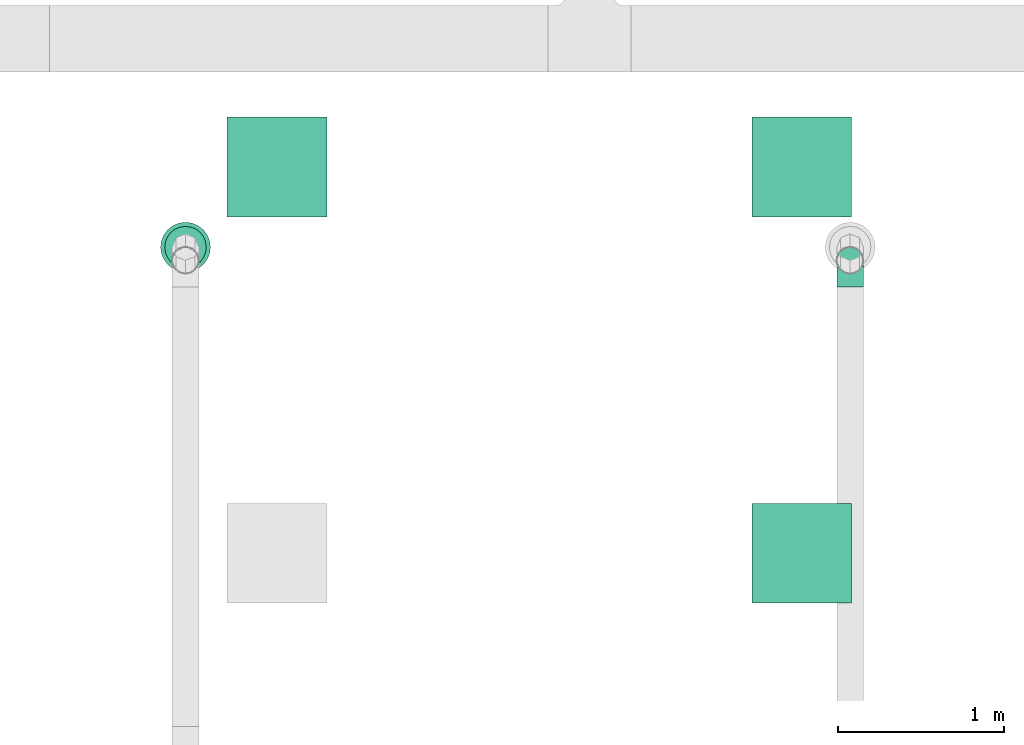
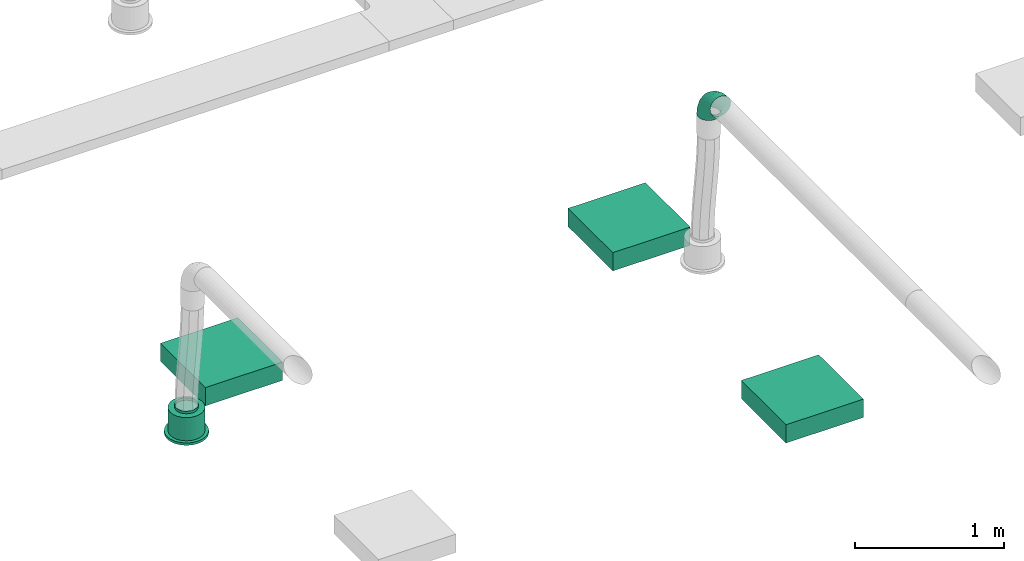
# One storey, part 34 of 374: 3 distribution elements, 1 flow fitting, 1 flow terminal.
"""IFC2X3 building model written with IfcOpenShell, lengths in metres."""

import ifcopenshell
import ifcopenshell.guid

model = None  # the IFC model being written
_history = None  # IfcOwnerHistory: only IFC2X3 demands one
_inside = {}  # id of a spatial element -> (the spatial element, [elements in it])
_under = {}  # id of a project, library or spatial element -> (it, [spatial elements below it])
_declared = {}  # id of a project -> (the project, [libraries it declares])
_typed = {}  # id of a type object -> (the type object, [elements of that type])
_made_of = {}  # id of a material, layer set ... -> (it, [elements and type objects made of it])


def new_model(schema):
    """Start an empty IFC model of exactly this schema.

    Asked for "IFC4X3", IfcOpenShell would pick the latest addendum, in which some entities
    have other attributes; the version numbers below select the first issue.
    IFC2X3 requires an IfcOwnerHistory on every rooted entity: one is made here for all.
    """
    global model, _history
    if schema == "IFC4X3":
        model = ifcopenshell.file(schema_version=(4, 3, 0, 0))
    else:
        model = ifcopenshell.file(schema=schema)
    _inside.clear()
    _under.clear()
    _declared.clear()
    _typed.clear()
    _made_of.clear()
    _history = None
    if model.schema == "IFC2X3":
        org = make("IfcOrganization", Name="unknown")
        user = make(
            "IfcPersonAndOrganization",
            ThePerson=make("IfcPerson", FamilyName="unknown"),
            TheOrganization=org,
        )
        app = make(
            "IfcApplication",
            ApplicationDeveloper=org,
            Version="unknown",
            ApplicationFullName="unknown",
            ApplicationIdentifier="unknown",
        )
        _history = make(
            "IfcOwnerHistory",
            OwningUser=user,
            OwningApplication=app,
            ChangeAction="ADDED",
            CreationDate=0,
        )
    return model


def make(cls, **values):
    """One entity of the class cls with the attributes given. An attribute that is None is left unset."""
    return model.create_entity(
        cls, **{name: value for name, value in values.items() if value is not None}
    )


def rooted(cls, **values):
    """An entity with a GlobalId (a new one), such as an element, a storey or a relation."""
    return make(cls, GlobalId=ifcopenshell.guid.new(), OwnerHistory=_history, **values)


def si_unit(unit_type, name, prefix=None):
    """IfcSIUnit, for example si_unit("LENGTHUNIT", "METRE", prefix="MILLI")."""
    return make("IfcSIUnit", UnitType=unit_type, Prefix=prefix, Name=name)


def assignment(units):
    """IfcUnitAssignment: the units of a project."""
    return None if units is None else make("IfcUnitAssignment", Units=units)


def point(xyz):
    """IfcCartesianPoint."""
    return None if xyz is None else make("IfcCartesianPoint", Coordinates=xyz)


def direction(xyz):
    """IfcDirection."""
    return None if xyz is None else make("IfcDirection", DirectionRatios=xyz)


def frame(location, z_axis=None, x_axis=None):
    """IfcAxis2Placement3D, a coordinate frame: its origin and axes. An axis left out is left unset."""
    return make(
        "IfcAxis2Placement3D",
        Location=point(location),
        Axis=direction(z_axis),
        RefDirection=direction(x_axis),
    )


def frame_2d(location, x_axis=None):
    """IfcAxis2Placement2D, a coordinate frame in the plane: its origin and x axis."""
    return make(
        "IfcAxis2Placement2D", Location=point(location), RefDirection=direction(x_axis)
    )


def origin():
    """The frame at (0, 0, 0) with its axes left unset."""
    return frame((0.0, 0.0, 0.0))


def place(relative_to, where):
    """IfcLocalPlacement: puts the frame where relative to a parent placement (None: the world)."""
    return make(
        "IfcLocalPlacement", PlacementRelTo=relative_to, RelativePlacement=where
    )


def context(
    kind, dimensions, precision=None, world=None, true_north=None, identifier=None
):
    """IfcGeometricRepresentationContext, for example the 3D "Model" context."""
    return make(
        "IfcGeometricRepresentationContext",
        ContextIdentifier=identifier,
        ContextType=kind,
        CoordinateSpaceDimension=dimensions,
        Precision=precision,
        WorldCoordinateSystem=world,
        TrueNorth=true_north,
    )


def subcontext(parent, identifier, kind, view, scale=None):
    """IfcGeometricRepresentationSubContext, for example "Body" below "Model"."""
    return make(
        "IfcGeometricRepresentationSubContext",
        ContextIdentifier=identifier,
        ContextType=kind,
        ParentContext=parent,
        TargetScale=scale,
        TargetView=view,
    )


def project(units=None, contexts=None):
    """IfcProject with its units and contexts."""
    return rooted(
        "IfcProject",
        Name="project",
        RepresentationContexts=contexts,
        UnitsInContext=assignment(units),
    )


def spatial(cls, under=None, at=None, **own):
    """A site, building, storey or space (cls), placed at a placement, below another one or the project."""
    s = rooted(cls, ObjectPlacement=at, **own)
    if under is not None:
        _under.setdefault(under.id(), (under, []))[1].append(s)
    return s


def profile(cls, at=None, kind="AREA", **sizes):
    """A parametric profile (cls). Its sizes go by their IFC names, for example OverallWidth=200.0."""
    return make(cls, ProfileType=kind, Position=at, **sizes)


def rectangle(**sizes):
    """IfcRectangleProfileDef."""
    return profile("IfcRectangleProfileDef", **sizes)


def extrude(swept, where, along, depth):
    """IfcExtrudedAreaSolid: the profile swept, set in the frame where, extruded along a direction by depth."""
    return make(
        "IfcExtrudedAreaSolid",
        SweptArea=swept,
        Position=where,
        ExtrudedDirection=direction(along),
        Depth=depth,
    )


def faces_of(points, faces, orient=None, outer=None):
    """IfcFace entities. A face is a list of loops; a loop is a list of indices into points, from 0.

    orient and outer hold one flag for each loop. By default every Orientation is true, the
    first loop of a face is its IfcFaceOuterBound and the others are IfcFaceBound.
    """
    made = []
    for i, loops in enumerate(faces):
        bounds = []
        for j, loop in enumerate(loops):
            is_outer = j == 0 if outer is None else outer[i][j]
            bounds.append(
                make(
                    "IfcFaceOuterBound" if is_outer else "IfcFaceBound",
                    Bound=make("IfcPolyLoop", Polygon=[points[k] for k in loop]),
                    Orientation=True if orient is None else orient[i][j],
                )
            )
        made.append(make("IfcFace", Bounds=bounds))
    return made


def open_shell(faces, orient=None, outer=None):
    """The faces of one IfcOpenShell. surface_model builds it on its shared points."""
    return ("IfcOpenShell", faces, orient, outer)


def surface_model(cls, points, shells):
    """IfcFaceBasedSurfaceModel or IfcShellBasedSurfaceModel (cls): surfaces that need not close."""
    shared = [point(p) for p in points]
    made = [make(c, CfsFaces=faces_of(shared, fs, o, b)) for c, fs, o, b in shells]
    if cls == "IfcFaceBasedSurfaceModel":
        return make(cls, FbsmFaces=made)
    return make(cls, SbsmBoundary=made)


def shape(context_of_items, identifier, shape_type, items):
    """IfcShapeRepresentation: the items that make up one representation, for example the "Body"."""
    return make(
        "IfcShapeRepresentation",
        ContextOfItems=context_of_items,
        RepresentationIdentifier=identifier,
        RepresentationType=shape_type,
        Items=items,
    )


def source(mapping_origin, context_of_items, identifier, shape_type, items):
    """IfcRepresentationMap: a shape defined once, which mapped items show again and again."""
    return make(
        "IfcRepresentationMap",
        MappingOrigin=mapping_origin,
        MappedRepresentation=shape(context_of_items, identifier, shape_type, items),
    )


def transform(
    local_origin,
    x_axis=None,
    y_axis=None,
    z_axis=None,
    scale=None,
    scale2=None,
    scale3=None,
    uniform=True,
):
    """IfcCartesianTransformationOperator3D, or its non-uniform kind. x_axis, y_axis, z_axis: its Axis1, 2, 3."""
    if uniform:
        return make(
            "IfcCartesianTransformationOperator3D",
            Axis1=direction(x_axis),
            Axis2=direction(y_axis),
            LocalOrigin=point(local_origin),
            Scale=scale,
            Axis3=direction(z_axis),
        )
    return make(
        "IfcCartesianTransformationOperator3DnonUniform",
        Axis1=direction(x_axis),
        Axis2=direction(y_axis),
        LocalOrigin=point(local_origin),
        Scale=scale,
        Axis3=direction(z_axis),
        Scale2=scale2,
        Scale3=scale3,
    )


def mapped(mapping_source, mapping_target):
    """IfcMappedItem: shows the shape of a source again, moved by a transform."""
    return make(
        "IfcMappedItem", MappingSource=mapping_source, MappingTarget=mapping_target
    )


def made_of(thing, what):
    """Note that an element or type object is made of a material, layer set ...; save() writes the relation."""
    if what is not None:
        _made_of.setdefault(what.id(), (what, []))[1].append(thing)
    return thing


def element(
    cls,
    number,
    at=None,
    inside=None,
    cuts=None,
    type_object=None,
    material=None,
    context=None,
    identifier="Body",
    shape_type=None,
    held_by="IfcProductDefinitionShape",
    body=None,
    shapes=None,
    **own,
):
    """One element of the class cls, such as IfcWall. Its Tag is "e" and its number.

    at: its placement. inside: the storey or other place that contains it. cuts: it is an
    opening in that element (IfcRelVoidsElement). A single representation is given by context,
    identifier, shape_type and body (its items); several are given by shapes. held_by: the class
    of the entity that holds the representations. save() writes the other relations.
    """
    e = rooted(cls, Tag="e%d" % number, ObjectPlacement=at, **own)
    if body is not None:
        shapes = [shape(context, identifier, shape_type, body)]
    if shapes is not None:
        e.Representation = make(held_by, Representations=shapes)
    if inside is not None:
        _inside.setdefault(inside.id(), (inside, []))[1].append(e)
    if cuts is not None:
        rooted(
            "IfcRelVoidsElement", RelatingBuildingElement=cuts, RelatedOpeningElement=e
        )
    if type_object is not None:
        _typed.setdefault(type_object.id(), (type_object, []))[1].append(e)
    return made_of(e, material)


def aggregate(whole, parts):
    """IfcRelAggregates: a whole, such as a stair, and the parts it consists of."""
    return rooted("IfcRelAggregates", RelatingObject=whole, RelatedObjects=parts)


def save(model, path):
    """Write the relations noted so far, then the file.

    IfcRelAggregates (storeys below a building ...), IfcRelContainedInSpatialStructure (elements
    in a storey), IfcRelDefinesByType, IfcRelAssociatesMaterial and IfcRelDeclares: one each for
    every whole, place, type object, material and project.
    """
    for whole, parts in _under.values():
        aggregate(whole, parts)
    for where, things in _inside.values():
        rooted(
            "IfcRelContainedInSpatialStructure",
            RelatedElements=things,
            RelatingStructure=where,
        )
    for kind, things in _typed.values():
        rooted("IfcRelDefinesByType", RelatedObjects=things, RelatingType=kind)
    for what, things in _made_of.values():
        rooted("IfcRelAssociatesMaterial", RelatedObjects=things, RelatingMaterial=what)
    for by, libraries in _declared.values():
        rooted("IfcRelDeclares", RelatingContext=by, RelatedDefinitions=libraries)
    model.write(path)


model = new_model("IFC2X3")

# Units and contexts
model_context = context("Model", 3, precision=1e-05, world=origin(), true_north=direction((-0.4480736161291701, 0.8939966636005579)))
body_context = subcontext(model_context, "Body", "Model", "MODEL_VIEW")
ifc_project = project(units=[si_unit("LENGTHUNIT", "METRE"), si_unit("AREAUNIT", "SQUARE_METRE"), si_unit("VOLUMEUNIT", "CUBIC_METRE"), si_unit("PLANEANGLEUNIT", "RADIAN"), si_unit("THERMODYNAMICTEMPERATUREUNIT", "KELVIN"), si_unit("MASSUNIT", "GRAM", prefix="KILO"), si_unit("TIMEUNIT", "SECOND")], contexts=[model_context])

# Site, building, storey
site_placement = place(None, origin())
site = spatial("IfcSite", under=ifc_project, at=site_placement, Name="Site 1", CompositionType="ELEMENT")
building_placement = place(site_placement, origin())
building = spatial("IfcBuilding", under=site, at=building_placement, Name="Undefined", CompositionType="ELEMENT")
storey_placement = place(building_placement, origin())
storey = spatial("IfcBuildingStorey", under=building, at=storey_placement, Name="Rez de chauss\x8ee", CompositionType="ELEMENT", Elevation=0.0)

# Flow terminal
shared_shape_1 = source(origin(), body_context, "Body", "SurfaceModel", [
    surface_model("IfcFaceBasedSurfaceModel", [(0.0, 0.0, 0.0), (0.03915785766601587, 0.0, 0.0), (0.03915785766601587, 0.020000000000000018, 0.0), (3.552713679e-15, 0.020000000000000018, 0.0), (0.07698144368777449, 0.0, -0.010134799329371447), (0.07698144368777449, 0.020000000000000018, -0.010134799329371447), (0.11089314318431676, 0.0, -0.02971372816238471), (0.11089314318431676, 0.020000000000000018, -0.02971372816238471), (0.13858192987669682, 0.0, -0.05740251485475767), (0.13858192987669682, 0.020000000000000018, -0.05740251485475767), (0.15816085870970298, 0.0, -0.09131421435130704), (0.15816085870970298, 0.020000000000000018, -0.09131421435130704), (0.16829565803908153, 0.0, -0.12913780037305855), (0.16829565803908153, 0.020000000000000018, -0.12913780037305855), (0.16829565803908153, 0.0, -0.16829565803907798), (0.16829565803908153, 0.020000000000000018, -0.16829565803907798), (0.15816085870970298, 0.0, -0.20611924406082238), (0.15816085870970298, 0.020000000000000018, -0.20611924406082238), (0.13858192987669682, 0.0, -0.24003094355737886), (0.13858192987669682, 0.020000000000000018, -0.24003094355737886), (0.11089314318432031, 0.0, -0.2677197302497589), (0.11089314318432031, 0.020000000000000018, -0.2677197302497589), (0.07698144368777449, 0.0, -0.2872986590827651), (0.07698144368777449, 0.020000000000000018, -0.2872986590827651), (0.039157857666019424, 0.0, -0.29743345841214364), (0.039157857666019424, 0.020000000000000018, -0.29743345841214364), (3.552713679e-15, 0.0, -0.29743345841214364), (3.552713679e-15, 0.020000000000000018, -0.29743345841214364), (-0.03782358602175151, 0.0, -0.2872986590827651), (-0.03782358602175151, 0.020000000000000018, -0.2872986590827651), (-0.07173528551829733, 0.0, -0.2677197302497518), (-0.07173528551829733, 0.020000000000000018, -0.2677197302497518), (-0.0994240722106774, 0.0, -0.24003094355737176), (-0.0994240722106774, 0.020000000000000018, -0.24003094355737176), (-0.11900300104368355, 0.0, -0.2061192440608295), (-0.11900300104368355, 0.020000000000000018, -0.2061192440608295), (-0.1291378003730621, 0.0, -0.16829565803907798), (-0.1291378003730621, 0.020000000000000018, -0.16829565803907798), (-0.1291378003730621, 0.0, -0.12913780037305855), (-0.1291378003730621, 0.020000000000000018, -0.12913780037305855), (-0.11900300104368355, 0.0, -0.09131421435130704), (-0.11900300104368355, 0.020000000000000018, -0.09131421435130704), (-0.0994240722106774, 0.0, -0.05740251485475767), (-0.0994240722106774, 0.020000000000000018, -0.05740251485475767), (-0.07173528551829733, 0.0, -0.029713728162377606), (-0.07173528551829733, 0.020000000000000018, -0.029713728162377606), (-0.03782358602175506, 0.0, -0.010134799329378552), (-0.03782358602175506, 0.020000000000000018, -0.010134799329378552), (0.019578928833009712, 0.0, -0.14871672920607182), (0.019578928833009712, 0.020000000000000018, -0.14871672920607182), (0.003263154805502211, 0.020000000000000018, -0.02478612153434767), (0.035894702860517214, 0.020000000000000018, -0.02478612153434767), (0.035894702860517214, 0.20999999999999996, -0.02478612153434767), (0.003263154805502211, 0.20999999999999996, -0.02478612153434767), (0.06741435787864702, 0.020000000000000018, -0.033231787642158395), (0.06741435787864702, 0.20999999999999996, -0.033231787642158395), (0.0956741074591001, 0.020000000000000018, -0.04954756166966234), (0.0956741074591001, 0.20999999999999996, -0.04954756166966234), (0.11874809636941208, 0.020000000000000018, -0.07262155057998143), (0.11874809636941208, 0.20999999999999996, -0.07262155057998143), (0.13506387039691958, 0.020000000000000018, -0.10088130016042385), (0.13506387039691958, 0.20999999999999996, -0.10088130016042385), (0.1435095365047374, 0.020000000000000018, -0.13240095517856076), (0.1435095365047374, 0.20999999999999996, -0.13240095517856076), (0.1435095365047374, 0.020000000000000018, -0.16503250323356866), (0.1435095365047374, 0.20999999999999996, -0.16503250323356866), (0.13506387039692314, 0.020000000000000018, -0.19655215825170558), (0.13506387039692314, 0.20999999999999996, -0.19655215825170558), (0.11874809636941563, 0.020000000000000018, -0.2248119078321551), (0.11874809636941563, 0.20999999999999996, -0.2248119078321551), (0.09567410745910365, 0.020000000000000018, -0.24788589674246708), (0.09567410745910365, 0.20999999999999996, -0.24788589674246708), (0.06741435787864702, 0.020000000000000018, -0.26420167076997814), (0.06741435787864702, 0.20999999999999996, -0.26420167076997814), (0.035894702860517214, 0.020000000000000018, -0.27264733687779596), (0.035894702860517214, 0.20999999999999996, -0.27264733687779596), (0.0032631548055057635, 0.020000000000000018, -0.27264733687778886), (0.0032631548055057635, 0.20999999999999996, -0.27264733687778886), (-0.028256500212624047, 0.020000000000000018, -0.26420167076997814), (-0.028256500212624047, 0.20999999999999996, -0.26420167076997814), (-0.05651624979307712, 0.020000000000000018, -0.2478858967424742), (-0.05651624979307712, 0.20999999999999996, -0.2478858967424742), (-0.07959023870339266, 0.020000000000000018, -0.2248119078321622), (-0.07959023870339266, 0.20999999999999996, -0.2248119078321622), (-0.09590601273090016, 0.020000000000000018, -0.19655215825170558), (-0.09590601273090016, 0.20999999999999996, -0.19655215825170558), (-0.10435167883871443, 0.020000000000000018, -0.16503250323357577), (-0.10435167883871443, 0.20999999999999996, -0.16503250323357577), (-0.10435167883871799, 0.020000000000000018, -0.13240095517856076), (-0.10435167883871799, 0.20999999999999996, -0.13240095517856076), (-0.09590601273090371, 0.020000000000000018, -0.10088130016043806), (-0.09590601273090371, 0.20999999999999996, -0.10088130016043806), (-0.07959023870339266, 0.020000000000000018, -0.07262155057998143), (-0.07959023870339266, 0.20999999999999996, -0.07262155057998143), (-0.056516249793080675, 0.020000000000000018, -0.04954756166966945), (-0.056516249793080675, 0.20999999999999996, -0.04954756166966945), (-0.028256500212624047, 0.020000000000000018, -0.033231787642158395), (-0.028256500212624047, 0.20999999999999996, -0.033231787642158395), (0.019578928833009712, 0.20999999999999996, -0.14871672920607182), (0.009136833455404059, 0.20999999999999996, -0.06940114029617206), (0.030021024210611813, 0.20999999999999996, -0.06940114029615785), (0.030021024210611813, 0.22999999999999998, -0.06940114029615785), (0.009136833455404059, 0.22999999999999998, -0.06940114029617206), (0.05019360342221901, 0.20999999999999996, -0.07480636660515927), (0.05019360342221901, 0.22999999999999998, -0.07480636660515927), (0.06827984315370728, 0.20999999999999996, -0.08524846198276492), (0.06827984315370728, 0.22999999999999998, -0.08524846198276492), (0.0830471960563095, 0.20999999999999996, -0.10001581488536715), (0.0830471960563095, 0.22999999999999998, -0.10001581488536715), (0.0934892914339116, 0.20999999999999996, -0.11810205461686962), (0.0934892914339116, 0.22999999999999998, -0.11810205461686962), (0.09889451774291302, 0.20999999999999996, -0.13827463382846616), (0.09889451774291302, 0.22999999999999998, -0.13827463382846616), (0.09889451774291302, 0.20999999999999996, -0.15915882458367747), (0.09889451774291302, 0.22999999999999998, -0.15915882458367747), (0.09348929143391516, 0.20999999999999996, -0.179331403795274), (0.09348929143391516, 0.22999999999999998, -0.179331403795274), (0.0830471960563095, 0.20999999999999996, -0.19741764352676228), (0.0830471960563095, 0.22999999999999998, -0.19741764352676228), (0.06827984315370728, 0.20999999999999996, -0.2121849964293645), (0.06827984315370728, 0.22999999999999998, -0.2121849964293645), (0.05019360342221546, 0.20999999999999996, -0.22262709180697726), (0.05019360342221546, 0.22999999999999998, -0.22262709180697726), (0.030021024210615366, 0.20999999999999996, -0.22803231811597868), (0.030021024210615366, 0.22999999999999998, -0.22803231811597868), (0.009136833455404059, 0.20999999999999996, -0.22803231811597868), (0.009136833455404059, 0.22999999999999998, -0.22803231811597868), (-0.011035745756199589, 0.20999999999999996, -0.22262709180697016), (-0.011035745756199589, 0.22999999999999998, -0.22262709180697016), (-0.0291219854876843, 0.20999999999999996, -0.2121849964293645), (-0.0291219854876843, 0.22999999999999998, -0.2121849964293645), (-0.043889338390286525, 0.20999999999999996, -0.19741764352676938), (-0.043889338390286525, 0.22999999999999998, -0.19741764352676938), (-0.05433143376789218, 0.20999999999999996, -0.17933140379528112), (-0.05433143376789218, 0.22999999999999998, -0.17933140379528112), (-0.05973666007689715, 0.20999999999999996, -0.15915882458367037), (-0.05973666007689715, 0.22999999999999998, -0.15915882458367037), (-0.0597366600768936, 0.20999999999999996, -0.13827463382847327), (-0.0597366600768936, 0.22999999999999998, -0.13827463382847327), (-0.05433143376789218, 0.20999999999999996, -0.11810205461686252), (-0.05433143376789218, 0.22999999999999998, -0.11810205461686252), (-0.043889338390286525, 0.20999999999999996, -0.10001581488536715), (-0.043889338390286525, 0.22999999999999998, -0.10001581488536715), (-0.02912198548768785, 0.20999999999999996, -0.08524846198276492), (-0.02912198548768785, 0.22999999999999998, -0.08524846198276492), (-0.011035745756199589, 0.20999999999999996, -0.07480636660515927), (-0.011035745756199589, 0.22999999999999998, -0.07480636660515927)], [open_shell([[[0, 1, 2, 3]], [[1, 4, 5, 2]], [[4, 6, 7, 5]], [[6, 8, 9, 7]], [[8, 10, 11, 9]], [[10, 12, 13, 11]], [[12, 14, 15, 13]], [[14, 16, 17, 15]], [[16, 18, 19, 17]], [[18, 20, 21, 19]], [[20, 22, 23, 21]], [[22, 24, 25, 23]], [[24, 26, 27, 25]], [[26, 28, 29, 27]], [[28, 30, 31, 29]], [[30, 32, 33, 31]], [[32, 34, 35, 33]], [[34, 36, 37, 35]], [[36, 38, 39, 37]], [[38, 40, 41, 39]], [[40, 42, 43, 41]], [[42, 44, 45, 43]], [[44, 46, 47, 45]], [[46, 0, 3, 47]], [[48, 1, 0]], [[48, 4, 1]], [[48, 6, 4]], [[48, 8, 6]], [[48, 10, 8]], [[48, 12, 10]], [[48, 14, 12]], [[48, 16, 14]], [[48, 18, 16]], [[48, 20, 18]], [[48, 22, 20]], [[48, 24, 22]], [[48, 26, 24]], [[48, 28, 26]], [[48, 30, 28]], [[48, 32, 30]], [[48, 34, 32]], [[48, 36, 34]], [[48, 38, 36]], [[48, 40, 38]], [[48, 42, 40]], [[48, 44, 42]], [[48, 46, 44]], [[48, 0, 46]], [[49, 47, 3]], [[49, 45, 47]], [[49, 43, 45]], [[49, 41, 43]], [[49, 39, 41]], [[49, 37, 39]], [[49, 35, 37]], [[49, 33, 35]], [[49, 31, 33]], [[49, 29, 31]], [[49, 27, 29]], [[49, 25, 27]], [[49, 23, 25]], [[49, 21, 23]], [[49, 19, 21]], [[49, 17, 19]], [[49, 15, 17]], [[49, 13, 15]], [[49, 11, 13]], [[49, 9, 11]], [[49, 7, 9]], [[49, 5, 7]], [[49, 2, 5]], [[49, 3, 2]], [[50, 51, 52, 53]], [[51, 54, 55, 52]], [[54, 56, 57, 55]], [[56, 58, 59, 57]], [[58, 60, 61, 59]], [[60, 62, 63, 61]], [[62, 64, 65, 63]], [[64, 66, 67, 65]], [[66, 68, 69, 67]], [[68, 70, 71, 69]], [[70, 72, 73, 71]], [[72, 74, 75, 73]], [[74, 76, 77, 75]], [[76, 78, 79, 77]], [[78, 80, 81, 79]], [[80, 82, 83, 81]], [[82, 84, 85, 83]], [[84, 86, 87, 85]], [[86, 88, 89, 87]], [[88, 90, 91, 89]], [[90, 92, 93, 91]], [[92, 94, 95, 93]], [[94, 96, 97, 95]], [[96, 50, 53, 97]], [[49, 51, 50]], [[49, 54, 51]], [[49, 56, 54]], [[49, 58, 56]], [[49, 60, 58]], [[49, 62, 60]], [[49, 64, 62]], [[49, 66, 64]], [[49, 68, 66]], [[49, 70, 68]], [[49, 72, 70]], [[49, 74, 72]], [[49, 76, 74]], [[49, 78, 76]], [[49, 80, 78]], [[49, 82, 80]], [[49, 84, 82]], [[49, 86, 84]], [[49, 88, 86]], [[49, 90, 88]], [[49, 92, 90]], [[49, 94, 92]], [[49, 96, 94]], [[49, 50, 96]], [[98, 97, 53]], [[98, 95, 97]], [[98, 93, 95]], [[98, 91, 93]], [[98, 89, 91]], [[98, 87, 89]], [[98, 85, 87]], [[98, 83, 85]], [[98, 81, 83]], [[98, 79, 81]], [[98, 77, 79]], [[98, 75, 77]], [[98, 73, 75]], [[98, 71, 73]], [[98, 69, 71]], [[98, 67, 69]], [[98, 65, 67]], [[98, 63, 65]], [[98, 61, 63]], [[98, 59, 61]], [[98, 57, 59]], [[98, 55, 57]], [[98, 52, 55]], [[98, 53, 52]], [[99, 100, 101, 102]], [[100, 103, 104, 101]], [[103, 105, 106, 104]], [[105, 107, 108, 106]], [[107, 109, 110, 108]], [[109, 111, 112, 110]], [[111, 113, 114, 112]], [[113, 115, 116, 114]], [[115, 117, 118, 116]], [[117, 119, 120, 118]], [[119, 121, 122, 120]], [[121, 123, 124, 122]], [[123, 125, 126, 124]], [[125, 127, 128, 126]], [[127, 129, 130, 128]], [[129, 131, 132, 130]], [[131, 133, 134, 132]], [[133, 135, 136, 134]], [[135, 137, 138, 136]], [[137, 139, 140, 138]], [[139, 141, 142, 140]], [[141, 143, 144, 142]], [[143, 145, 146, 144]], [[145, 99, 102, 146]]])]),
])
flow_terminal_placement = place(storey_placement, origin())
element("IfcFlowTerminal", 1, at=flow_terminal_placement, inside=storey, Name="Air diffuseur - bouche", ObjectType="Air diffuseur - bouche", context=body_context, shape_type="MappedRepresentation", body=[
    mapped(shared_shape_1, transform((6.980053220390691, 16.80529701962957, 2.38), x_axis=(0.9914448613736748, 0.13052619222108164, 0.0), y_axis=(0.0, 0.0, 1.0), z_axis=(0.13052619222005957, -0.9914448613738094, 0.0))),
])

# Flow fitting
shared_shape_2 = source(origin(), body_context, "Body", "SurfaceModel", [
    surface_model("IfcFaceBasedSurfaceModel", [(0.06265257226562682, -8.8817842e-16, 0.0), (0.062296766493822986, 0.02088115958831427, -7.105427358e-15), (0.0003558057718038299, 0.020881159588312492, 7.105427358e-15), (0.0, 0.0, 0.0), (-0.059474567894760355, 0.022956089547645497, -0.015896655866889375), (-0.06051773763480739, 0.002098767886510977, -0.01607928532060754), (-0.11311701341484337, 0.02696454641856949, -0.04660663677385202), (-0.11477645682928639, 0.006153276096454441, -0.04714207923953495), (-0.15691588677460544, 0.0326333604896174, -0.09003710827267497), (-0.15907851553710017, 0.01188721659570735, -0.09107150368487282), (-0.18788636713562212, 0.03957621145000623, -0.14322835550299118), (-0.1904048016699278, 0.01890983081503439, -0.14487384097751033), (-0.2039178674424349, 0.04731995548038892, -0.20255548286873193), (-0.20662048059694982, 0.026742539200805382, -0.20488255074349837), (0.061253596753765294, 0.04103889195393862, -0.0053597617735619), (0.0013989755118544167, 0.04103889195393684, -0.005359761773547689), (-0.05641614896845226, 0.04304393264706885, -0.02072097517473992), (-0.10825177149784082, 0.04691737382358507, -0.050396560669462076), (-0.15057538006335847, 0.05239524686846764, -0.09236417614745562), (-0.18050269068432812, 0.05910424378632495, -0.14376379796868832), (-0.19599420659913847, 0.06658715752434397, -0.20109262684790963), (0.05959415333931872, 0.05909948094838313, -0.01571402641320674), (0.003058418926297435, 0.05909948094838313, -0.01571402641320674), (-0.05155090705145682, 0.06099334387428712, -0.030223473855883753), (-0.10051228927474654, 0.06465200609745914, -0.058253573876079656), (-0.1404890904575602, 0.0698261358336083, -0.09789412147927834), (-0.16875695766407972, 0.0761631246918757, -0.14644367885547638), (-0.18338948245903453, 0.08323111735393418, -0.2005936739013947), (0.057431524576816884, 0.07383212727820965, -0.030357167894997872), (0.005221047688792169, 0.07383212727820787, -0.03035716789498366), (-0.0452104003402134, 0.07558110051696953, -0.04375657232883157), (-0.09042599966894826, 0.07895985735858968, -0.06964223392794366), (-0.12734438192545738, 0.08373814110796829, -0.10625008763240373), (-0.15344962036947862, 0.08959031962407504, -0.15108536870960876), (-0.16696268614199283, 0.0961175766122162, -0.20109262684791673), (0.054913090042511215, 0.0842328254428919, -0.048291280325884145), (0.007739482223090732, 0.08423282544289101, -0.04829128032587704), (-0.037826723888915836, 0.08581307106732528, -0.06039801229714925), (-0.07868026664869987, 0.08886587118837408, -0.08378642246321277), (-0.11203704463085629, 0.09318318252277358, -0.11686262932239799), (-0.13562384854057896, 0.09847078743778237, -0.1573725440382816), (-0.14783327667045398, 0.10436834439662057, -0.20255548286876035), (0.05221047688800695, 0.0895927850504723, -0.06829418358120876), (0.010442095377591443, 0.08959278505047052, -0.06829418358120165), (-0.029903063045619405, 0.09099196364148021, -0.07901370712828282), (-0.06607554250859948, 0.09369496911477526, -0.0997222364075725), (-0.0956102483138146, 0.0975175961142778, -0.12900851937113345), (-0.11649443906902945, 0.10219933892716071, -0.16487674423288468), (-0.12730489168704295, 0.1074211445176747, -0.2048825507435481), (0.04950786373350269, 0.08954673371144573, -0.08900271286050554), (0.013144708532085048, 0.08954673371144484, -0.08900271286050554), (-0.02197940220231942, 0.09076484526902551, -0.09833502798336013), (-0.05347081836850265, 0.09311805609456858, -0.11636367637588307), (-0.0791834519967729, 0.09644599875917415, -0.14186003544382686), (-0.09736502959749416, 0.10052187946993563, -0.17308657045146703), (-0.10677650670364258, 0.1050679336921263, -0.20791524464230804), (0.04698942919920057, 0.08409780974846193, -0.10900561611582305), (0.015663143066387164, 0.08409780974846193, -0.10900561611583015), (-0.014595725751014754, 0.08514719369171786, -0.11704525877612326), (-0.0417250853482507, 0.0871744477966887, -0.13257665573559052), (-0.06387611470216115, 0.09004141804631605, -0.15454136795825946), (-0.07953925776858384, 0.09355272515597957, -0.1814425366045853), (-0.08764709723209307, 0.09746907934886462, -0.21144689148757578), (0.04482680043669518, 0.0736173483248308, -0.12693972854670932), (0.017825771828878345, 0.0736173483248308, -0.12693972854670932), (-0.008255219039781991, 0.07452184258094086, -0.13386932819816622), (-0.03163879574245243, 0.0762691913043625, -0.14725628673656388), (-0.050731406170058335, 0.07874031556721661, -0.1661883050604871), (-0.06423192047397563, 0.08176681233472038, -0.18937519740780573), (-0.07122030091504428, 0.08514243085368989, -0.21523681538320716), (0.04316735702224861, 0.058819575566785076, -0.14158287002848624), (0.019485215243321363, 0.058819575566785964, -0.14158287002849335), (-0.0033899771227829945, 0.05961289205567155, -0.14766070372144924), (-0.02389931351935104, 0.06114546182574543, -0.15940217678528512), (-0.04064511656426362, 0.06331284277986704, -0.17600712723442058), (-0.052486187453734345, 0.06596733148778, -0.19634395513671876), (-0.05861557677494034, 0.06892802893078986, -0.2190267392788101), (0.04212418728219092, 0.040712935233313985, -0.15193713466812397), (0.020528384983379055, 0.040712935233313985, -0.15193713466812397), (-0.0003315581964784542, 0.041436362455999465, -0.15747952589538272), (-0.019034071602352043, 0.04283391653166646, -0.16818660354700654), (-0.03430460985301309, 0.04481035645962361, -0.1833286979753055), (-0.04510251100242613, 0.047230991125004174, -0.20187390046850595), (-0.05069191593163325, 0.04993085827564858, -0.22255838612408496), (0.04176838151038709, 0.02053136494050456, -0.15729689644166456), (0.020884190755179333, 0.02053136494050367, -0.15729689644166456), (0.0007116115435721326, 0.021230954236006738, -0.16265665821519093), (-0.017374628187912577, 0.022582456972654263, -0.17301092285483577), (-0.03214198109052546, 0.024493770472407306, -0.1876540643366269), (-0.042584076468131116, 0.026834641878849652, -0.20558817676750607), (-0.04798930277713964, 0.02944554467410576, -0.22559108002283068), (0.04212418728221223, -0.000349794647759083, -0.15729689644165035), (0.020528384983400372, -0.000349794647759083, -0.15729689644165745), (-0.0003315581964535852, 0.00037363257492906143, -0.1628392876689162), (-0.019034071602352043, 0.0017711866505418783, -0.17354636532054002), (-0.03430460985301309, 0.0037476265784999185, -0.18868845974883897), (-0.04510251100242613, 0.00616826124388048, -0.20723366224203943), (-0.05069191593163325, 0.008868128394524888, -0.22791814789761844), (0.04316735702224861, -0.020507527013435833, -0.15193713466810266), (0.019485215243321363, -0.020507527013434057, -0.15193713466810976), (-0.0033899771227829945, -0.019714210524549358, -0.15801496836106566), (-0.02389931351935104, -0.01818164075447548, -0.16975644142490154), (-0.04064511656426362, -0.01601425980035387, -0.186361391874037), (-0.052486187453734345, -0.013359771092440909, -0.20669821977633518), (-0.05861557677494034, -0.010399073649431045, -0.22938100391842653), (0.04482680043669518, -0.03856811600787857, -0.1415828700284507), (0.017825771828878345, -0.03856811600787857, -0.1415828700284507), (-0.008255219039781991, -0.03766362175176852, -0.1485124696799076), (-0.03163879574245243, -0.03591627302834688, -0.16189942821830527), (-0.050731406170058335, -0.03344514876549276, -0.1808314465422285), (-0.06423192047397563, -0.030418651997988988, -0.20401833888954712), (-0.07122030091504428, -0.027043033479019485, -0.22987995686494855), (0.04698942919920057, -0.05330076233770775, -0.12693972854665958), (0.015663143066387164, -0.05330076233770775, -0.12693972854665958), (-0.014595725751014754, -0.05225137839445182, -0.1349793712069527), (-0.0417250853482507, -0.05022412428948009, -0.15051076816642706), (-0.06387611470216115, -0.047357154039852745, -0.172475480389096), (-0.07953925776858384, -0.043845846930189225, -0.19937664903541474), (-0.08764709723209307, -0.03992949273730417, -0.2293810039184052), (0.04950786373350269, -0.06370146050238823, -0.10900561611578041), (0.013144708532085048, -0.06370146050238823, -0.10900561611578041), (-0.02197940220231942, -0.06248334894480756, -0.11833793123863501), (-0.05347081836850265, -0.06013013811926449, -0.13636657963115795), (-0.0791834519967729, -0.05680219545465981, -0.16186293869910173), (-0.09736502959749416, -0.05272631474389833, -0.1930894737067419), (-0.10677650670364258, -0.04818026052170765, -0.2279181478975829), (0.05221047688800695, -0.06906142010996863, -0.08900271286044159), (0.010442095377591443, -0.06906142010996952, -0.08900271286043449), (-0.029903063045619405, -0.06766224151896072, -0.09972223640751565), (-0.06607554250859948, -0.06495923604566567, -0.12043076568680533), (-0.0956102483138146, -0.06113660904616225, -0.14971704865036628), (-0.11649443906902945, -0.05645486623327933, -0.1855852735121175), (-0.12730489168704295, -0.05123306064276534, -0.22559108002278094), (0.054913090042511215, -0.06901536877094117, -0.06829418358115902), (0.007739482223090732, -0.06901536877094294, -0.06829418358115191), (-0.037826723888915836, -0.06743512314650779, -0.08040091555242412), (-0.07868026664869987, -0.06438232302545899, -0.10378932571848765), (-0.11203704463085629, -0.06006501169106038, -0.13686553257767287), (-0.13562384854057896, -0.0547774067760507, -0.17737544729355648), (-0.14783327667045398, -0.04887984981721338, -0.22255838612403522), (0.057431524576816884, -0.06356644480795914, -0.0482912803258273), (0.005221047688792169, -0.06356644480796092, -0.04829128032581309), (-0.0452104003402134, -0.061817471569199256, -0.0616906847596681), (-0.09042599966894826, -0.05843871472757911, -0.0875763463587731), (-0.12734438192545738, -0.05366043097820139, -0.12418420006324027), (-0.15344962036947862, -0.04780825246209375, -0.1690194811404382), (-0.16696268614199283, -0.041280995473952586, -0.21902673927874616), (0.05959415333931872, -0.05308598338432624, -0.030357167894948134), (0.003058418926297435, -0.05308598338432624, -0.030357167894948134), (-0.05155090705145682, -0.05119212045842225, -0.04486661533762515), (-0.10051228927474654, -0.04753345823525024, -0.07289671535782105), (-0.1404890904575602, -0.04235932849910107, -0.11253726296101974), (-0.16875695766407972, -0.03602233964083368, -0.16108682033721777), (-0.18338948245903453, -0.02895434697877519, -0.2152368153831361), (0.061253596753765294, -0.03828821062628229, -0.015714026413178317), (0.0013989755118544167, -0.03828821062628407, -0.015714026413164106), (-0.05641614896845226, -0.03628316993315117, -0.031075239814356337), (-0.10825177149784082, -0.03240972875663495, -0.06075082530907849), (-0.15057538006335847, -0.026931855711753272, -0.10271844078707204), (-0.18050269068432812, -0.02022285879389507, -0.15411806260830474), (-0.19599420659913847, -0.012739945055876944, -0.21144689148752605), (0.062296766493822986, -0.020181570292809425, -0.005359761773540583), (0.0003558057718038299, -0.020181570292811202, -0.0053597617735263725), (-0.059474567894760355, -0.018106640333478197, -0.021256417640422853), (-0.11311701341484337, -0.014098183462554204, -0.051966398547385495), (-0.15691588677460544, -0.00842936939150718, -0.09539687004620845), (-0.18788636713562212, -0.0014865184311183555, -0.14858811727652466), (-0.2039178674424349, 0.006257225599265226, -0.2079152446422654)], [open_shell([[[0, 1, 2, 3]], [[3, 2, 4, 5]], [[5, 4, 6, 7]], [[7, 6, 8, 9]], [[9, 8, 10, 11]], [[11, 10, 12, 13]], [[1, 14, 15, 2]], [[2, 15, 16, 4]], [[4, 16, 17, 6]], [[6, 17, 18, 8]], [[8, 18, 19, 10]], [[10, 19, 20, 12]], [[14, 21, 22, 15]], [[15, 22, 23, 16]], [[16, 23, 24, 17]], [[17, 24, 25, 18]], [[18, 25, 26, 19]], [[19, 26, 27, 20]], [[21, 28, 29, 22]], [[22, 29, 30, 23]], [[23, 30, 31, 24]], [[24, 31, 32, 25]], [[25, 32, 33, 26]], [[26, 33, 34, 27]], [[28, 35, 36, 29]], [[29, 36, 37, 30]], [[30, 37, 38, 31]], [[31, 38, 39, 32]], [[32, 39, 40, 33]], [[33, 40, 41, 34]], [[35, 42, 43, 36]], [[36, 43, 44, 37]], [[37, 44, 45, 38]], [[38, 45, 46, 39]], [[39, 46, 47, 40]], [[40, 47, 48, 41]], [[42, 49, 50, 43]], [[43, 50, 51, 44]], [[44, 51, 52, 45]], [[45, 52, 53, 46]], [[46, 53, 54, 47]], [[47, 54, 55, 48]], [[49, 56, 57, 50]], [[50, 57, 58, 51]], [[51, 58, 59, 52]], [[52, 59, 60, 53]], [[53, 60, 61, 54]], [[54, 61, 62, 55]], [[56, 63, 64, 57]], [[57, 64, 65, 58]], [[58, 65, 66, 59]], [[59, 66, 67, 60]], [[60, 67, 68, 61]], [[61, 68, 69, 62]], [[63, 70, 71, 64]], [[64, 71, 72, 65]], [[65, 72, 73, 66]], [[66, 73, 74, 67]], [[67, 74, 75, 68]], [[68, 75, 76, 69]], [[70, 77, 78, 71]], [[71, 78, 79, 72]], [[72, 79, 80, 73]], [[73, 80, 81, 74]], [[74, 81, 82, 75]], [[75, 82, 83, 76]], [[77, 84, 85, 78]], [[78, 85, 86, 79]], [[79, 86, 87, 80]], [[80, 87, 88, 81]], [[81, 88, 89, 82]], [[82, 89, 90, 83]], [[84, 91, 92, 85]], [[85, 92, 93, 86]], [[86, 93, 94, 87]], [[87, 94, 95, 88]], [[88, 95, 96, 89]], [[89, 96, 97, 90]], [[91, 98, 99, 92]], [[92, 99, 100, 93]], [[93, 100, 101, 94]], [[94, 101, 102, 95]], [[95, 102, 103, 96]], [[96, 103, 104, 97]], [[98, 105, 106, 99]], [[99, 106, 107, 100]], [[100, 107, 108, 101]], [[101, 108, 109, 102]], [[102, 109, 110, 103]], [[103, 110, 111, 104]], [[105, 112, 113, 106]], [[106, 113, 114, 107]], [[107, 114, 115, 108]], [[108, 115, 116, 109]], [[109, 116, 117, 110]], [[110, 117, 118, 111]], [[112, 119, 120, 113]], [[113, 120, 121, 114]], [[114, 121, 122, 115]], [[115, 122, 123, 116]], [[116, 123, 124, 117]], [[117, 124, 125, 118]], [[119, 126, 127, 120]], [[120, 127, 128, 121]], [[121, 128, 129, 122]], [[122, 129, 130, 123]], [[123, 130, 131, 124]], [[124, 131, 132, 125]], [[126, 133, 134, 127]], [[127, 134, 135, 128]], [[128, 135, 136, 129]], [[129, 136, 137, 130]], [[130, 137, 138, 131]], [[131, 138, 139, 132]], [[133, 140, 141, 134]], [[134, 141, 142, 135]], [[135, 142, 143, 136]], [[136, 143, 144, 137]], [[137, 144, 145, 138]], [[138, 145, 146, 139]], [[140, 147, 148, 141]], [[141, 148, 149, 142]], [[142, 149, 150, 143]], [[143, 150, 151, 144]], [[144, 151, 152, 145]], [[145, 152, 153, 146]], [[147, 154, 155, 148]], [[148, 155, 156, 149]], [[149, 156, 157, 150]], [[150, 157, 158, 151]], [[151, 158, 159, 152]], [[152, 159, 160, 153]], [[154, 161, 162, 155]], [[155, 162, 163, 156]], [[156, 163, 164, 157]], [[157, 164, 165, 158]], [[158, 165, 166, 159]], [[159, 166, 167, 160]], [[161, 0, 3, 162]], [[162, 3, 5, 163]], [[163, 5, 7, 164]], [[164, 7, 9, 165]], [[165, 9, 11, 166]], [[166, 11, 13, 167]]])]),
])
flow_fitting_placement = place(storey_placement, origin())
element("IfcFlowFitting", 2, at=flow_fitting_placement, inside=storey, Name="Coude", ObjectType="Coude", context=body_context, shape_type="MappedRepresentation", body=[
    mapped(shared_shape_2, transform((10.98005330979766, 16.947119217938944, 3.7021165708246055), x_axis=(0.0, 0.13052619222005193, -0.9914448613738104), y_axis=(-0.9915887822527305, -0.12832103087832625, -0.016893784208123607), z_axis=(-0.12942830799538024, 0.9831056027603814, 0.12942830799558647))),
])

# Distribution elements
distribution_element_1_placement = place(storey_placement, origin())
element("IfcDistributionElement", 3, at=distribution_element_1_placement, inside=storey, Name="Decken-Rechteckleuchte mit Rahmen AP", ObjectType="Decken-Rechteckleuchte mit Rahmen AP", context=body_context, shape_type="SweptSolid", body=[
    extrude(rectangle(XDim=0.6000000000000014, YDim=0.6000000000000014, at=frame_2d((3.552713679e-15, 0.0), x_axis=(0.0, 1.0))), frame((7.531229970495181, 17.437499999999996, 2.5500000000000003), z_axis=(0.0, 0.0, -1.0), x_axis=(1.0, 0.0, 0.0)), (0.0, 0.0, 1.0), 0.15),
])
distribution_element_2_placement = place(storey_placement, origin())
element("IfcDistributionElement", 4, at=distribution_element_2_placement, inside=storey, Name="Decken-Rechteckleuchte mit Rahmen AP", ObjectType="Decken-Rechteckleuchte mit Rahmen AP", context=body_context, shape_type="SweptSolid", body=[
    extrude(rectangle(XDim=0.6000000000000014, YDim=0.6000000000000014, at=frame_2d((3.552713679e-15, 0.0), x_axis=(0.0, 1.0))), frame((10.689072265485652, 15.1125, 2.5500000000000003), z_axis=(0.0, 0.0, -1.0), x_axis=(1.0, 0.0, 0.0)), (0.0, 0.0, 1.0), 0.15),
])
distribution_element_3_placement = place(storey_placement, origin())
element("IfcDistributionElement", 5, at=distribution_element_3_placement, inside=storey, Name="Decken-Rechteckleuchte mit Rahmen AP", ObjectType="Decken-Rechteckleuchte mit Rahmen AP", context=body_context, shape_type="SweptSolid", body=[
    extrude(rectangle(XDim=0.6000000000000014, YDim=0.6000000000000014, at=frame_2d((3.552713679e-15, 0.0), x_axis=(0.0, 1.0))), frame((10.689072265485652, 17.437499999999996, 2.5500000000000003), z_axis=(0.0, 0.0, -1.0), x_axis=(1.0, 0.0, 0.0)), (0.0, 0.0, 1.0), 0.15),
])

save(model, "model.ifc")
